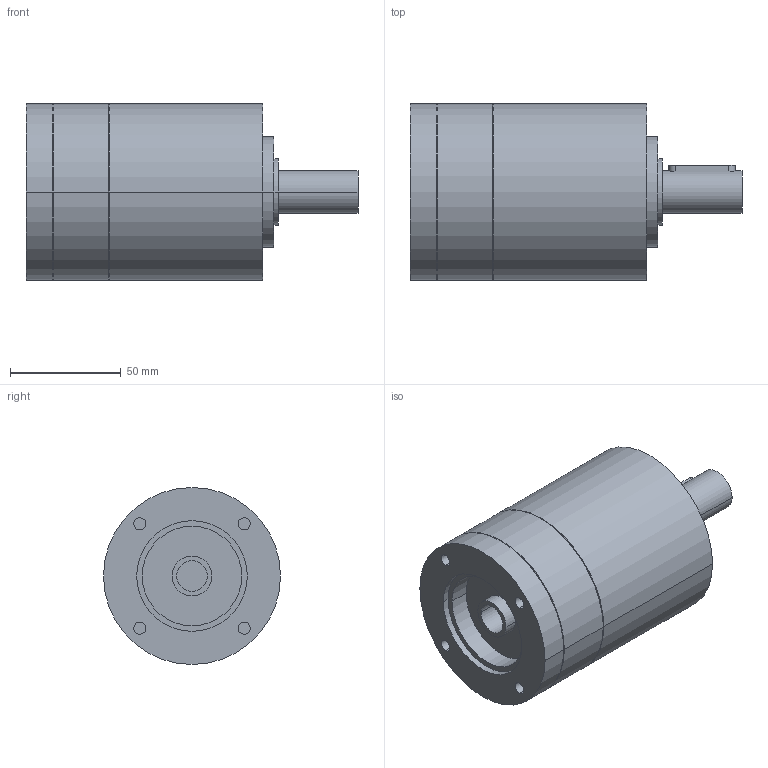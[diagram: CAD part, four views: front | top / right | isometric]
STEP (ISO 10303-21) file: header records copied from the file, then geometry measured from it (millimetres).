
FILE_DESCRIPTION(('CoCreate Modeling STEP Export'),'2;1');
FILE_NAME('GPR100_ig-3-4-5-6_19_B14_14_P29.stp','2014-08-26T10:07:25',(''),(''),'CoCreate Modeling STEP processor for AP214 (Solid Model)','CoCreate Modeling 16.00C 25-Feb-2009 (C) Parametric Technology GmbH','');
FILE_SCHEMA(('AUTOMOTIVE_DESIGN { 1 0 10303 214 1 1 1 1 }'));
Length unit declared in the file: millimetre
Products named in the file (2): GPR100_ig-3-4-5-6_19_B14_14_P29
Assembly tree (1 placements, depth 2):
  GPR100_ig-3-4-5-6_19_B14_14_P29
    GPR100_ig-3-4-5-6_19_B14_14_P29
Bounding box: 150 x 80 x 80 mm (x, y, z)
Volume: 533379.5 mm3; surface area: 46183.4 mm2
Topology: 1 solids, 1 shells, 68 faces, 168 edges, 118 vertices
Faces by surface type: cylinder 40, plane 22, cone 6
Entity records: 1721 total; most frequent: ORIENTED_EDGE 332, CARTESIAN_POINT 320, DIRECTION 224, EDGE_CURVE 166, VERTEX_POINT 118, AXIS2_PLACEMENT_3D 86, EDGE_LOOP 86, FACE_OUTER_BOUND 68
